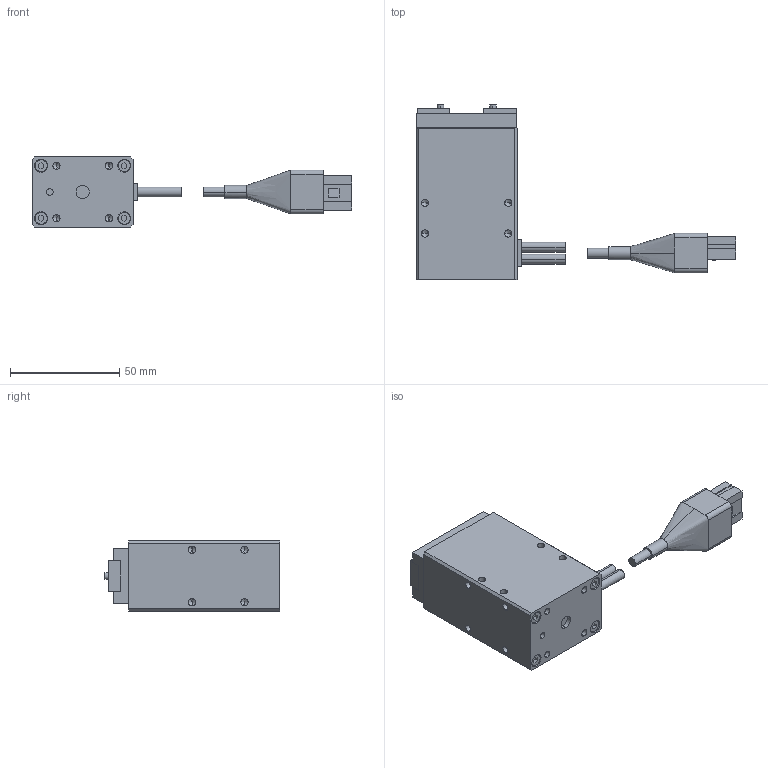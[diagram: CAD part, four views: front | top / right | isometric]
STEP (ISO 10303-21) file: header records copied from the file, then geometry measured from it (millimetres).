
FILE_DESCRIPTION (( 'STEP AP214' ), '1' );
FILE_NAME ('ESG1-SS-2815.STEP', '2009-02-12T08:30:29', ( '風音庵' ), ( '' ), 'SwSTEP 2.0', 'SolidWorks 2007', '' );
FILE_SCHEMA (( 'AUTOMOTIVE_DESIGN' ));
Length unit declared in the file: millimetre
Products named in the file (6): ESG1-SS-2815 BODY_蹬怮椔; CNNECTOR丂BB丂ASSY_棉太倌; ESG1-SS-2815 FINGER_蹬怮椔; CONNECTOR COVER　BB_ﾃﾞﾌｫﾙﾄ; CONNECTOR　DK-2100D-12R_ﾃﾞﾌｫﾙﾄ; ESG1-SS-2815
Assembly tree (6 placements, depth 3):
  ESG1-SS-2815
    CNNECTOR丂BB丂ASSY_棉太倌
      CONNECTOR　DK-2100D-12R_ﾃﾞﾌｫﾙﾄ
      CONNECTOR COVER　BB_ﾃﾞﾌｫﾙﾄ
    ESG1-SS-2815 FINGER_蹬怮椔  x2
    ESG1-SS-2815 BODY_蹬怮椔
Bounding box: 145.89 x 80 x 32 mm (x, y, z)
Volume: 116398.7 mm3; surface area: 26290.2 mm2
Topology: 5 solids, 5 shells, 330 faces, 802 edges, 498 vertices
Faces by surface type: plane 200, cylinder 84, cone 44, bspline 2
Entity records: 12920 total; most frequent: CARTESIAN_POINT 1975, DIRECTION 1538, ORIENTED_EDGE 1468, EDGE_CURVE 734, VECTOR 568, LINE 568, AXIS2_PLACEMENT_3D 485, VERTEX_POINT 480
